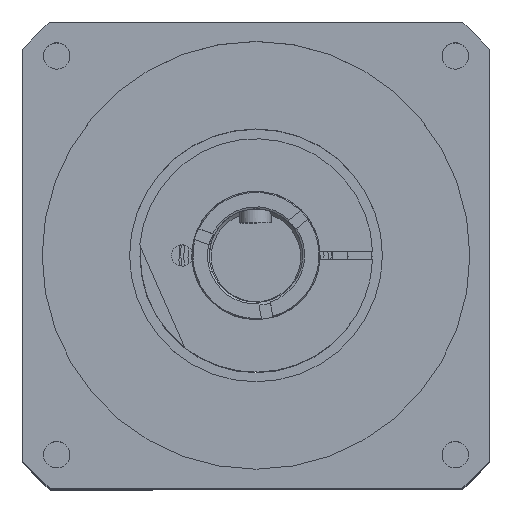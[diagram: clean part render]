
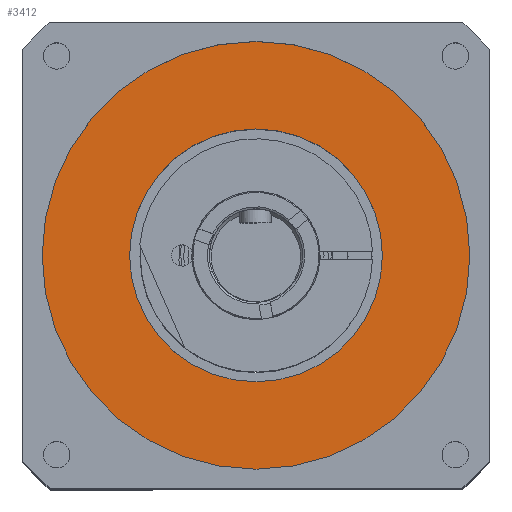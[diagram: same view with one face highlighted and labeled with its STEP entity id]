
A CAD part, top view. The second image highlights one B-rep face of the part: STEP entity #3412.
In plain terms, the highlighted planar face has unit normal (0, 0, 1).
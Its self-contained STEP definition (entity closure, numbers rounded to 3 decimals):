
#130 = CARTESIAN_POINT ( 'NONE',  ( 0., 0., 37.5 ) ) ;
#151 = DIRECTION ( 'NONE',  ( 0., 0., 1. ) ) ;
#165 = DIRECTION ( 'NONE',  ( 1., 0., 0. ) ) ;
#245 = DIRECTION ( 'NONE',  ( 0., 0., 1. ) ) ;
#673 = CARTESIAN_POINT ( 'NONE',  ( 32.5, 0., 37.5 ) ) ;
#1105 = VERTEX_POINT ( 'NONE', #673 ) ;
#1143 = CARTESIAN_POINT ( 'NONE',  ( -32.5, 0., 37.5 ) ) ;
#1152 = VERTEX_POINT ( 'NONE', #1143 ) ;
#1477 = EDGE_CURVE ( 'NONE', #1152, #1105, #4935, .T. ) ;
#1557 = EDGE_LOOP ( 'NONE', ( #5088, #5926 ) ) ;
#1778 = AXIS2_PLACEMENT_3D ( 'NONE', #1931, #1906, #6904 ) ;
#1805 = DIRECTION ( 'NONE',  ( 0., 0., 1. ) ) ;
#1906 = DIRECTION ( 'NONE',  ( 0., 0., 1. ) ) ;
#1931 = CARTESIAN_POINT ( 'NONE',  ( 0., 0., 37.5 ) ) ;
#2223 = EDGE_CURVE ( 'NONE', #4293, #5540, #3340, .T. ) ;
#2293 = FACE_OUTER_BOUND ( 'NONE', #1557, .T. ) ;
#2412 = CIRCLE ( 'NONE', #7065, 32.5 ) ;
#2855 = CARTESIAN_POINT ( 'NONE',  ( 0., 0., 37.5 ) ) ;
#3340 = CIRCLE ( 'NONE', #1778, 55. ) ;
#3412 = ADVANCED_FACE ( 'NONE', ( #3953, #2293 ), #6080, .T. ) ;
#3476 = DIRECTION ( 'NONE',  ( 1., 0., 0. ) ) ;
#3640 = CARTESIAN_POINT ( 'NONE',  ( -55., 0., 37.5 ) ) ;
#3953 = FACE_BOUND ( 'NONE', #7312, .T. ) ;
#3998 = CARTESIAN_POINT ( 'NONE',  ( 0., 0., 37.5 ) ) ;
#4293 = VERTEX_POINT ( 'NONE', #3640 ) ;
#4644 = DIRECTION ( 'NONE',  ( 1., 0., 0. ) ) ;
#4880 = ORIENTED_EDGE ( 'NONE', *, *, #1477, .F. ) ;
#4935 = CIRCLE ( 'NONE', #7797, 32.5 ) ;
#5088 = ORIENTED_EDGE ( 'NONE', *, *, #5381, .T. ) ;
#5378 = AXIS2_PLACEMENT_3D ( 'NONE', #3998, #245, #4644 ) ;
#5381 = EDGE_CURVE ( 'NONE', #5540, #4293, #5783, .T. ) ;
#5513 = CARTESIAN_POINT ( 'NONE',  ( 0., 0., 37.5 ) ) ;
#5540 = VERTEX_POINT ( 'NONE', #7220 ) ;
#5783 = CIRCLE ( 'NONE', #5378, 55. ) ;
#5926 = ORIENTED_EDGE ( 'NONE', *, *, #2223, .T. ) ;
#6080 = PLANE ( 'NONE',  #6964 ) ;
#6109 = DIRECTION ( 'NONE',  ( 1., 0., 0. ) ) ;
#6904 = DIRECTION ( 'NONE',  ( 1., 0., 0. ) ) ;
#6964 = AXIS2_PLACEMENT_3D ( 'NONE', #5513, #1805, #6109 ) ;
#6999 = ORIENTED_EDGE ( 'NONE', *, *, #7498, .F. ) ;
#7065 = AXIS2_PLACEMENT_3D ( 'NONE', #2855, #7085, #3476 ) ;
#7085 = DIRECTION ( 'NONE',  ( 0., 0., 1. ) ) ;
#7220 = CARTESIAN_POINT ( 'NONE',  ( 55., 0., 37.5 ) ) ;
#7312 = EDGE_LOOP ( 'NONE', ( #4880, #6999 ) ) ;
#7498 = EDGE_CURVE ( 'NONE', #1105, #1152, #2412, .T. ) ;
#7797 = AXIS2_PLACEMENT_3D ( 'NONE', #130, #151, #165 ) ;
